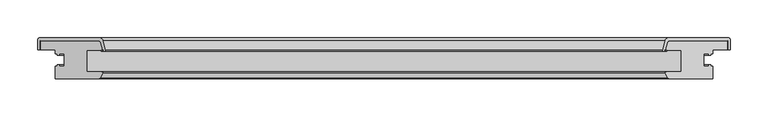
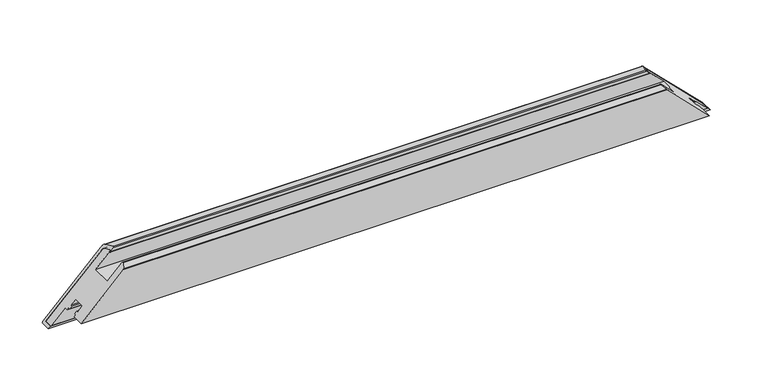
"""IFC4 building model written with IfcOpenShell, lengths in millimetres: proxy geometry, Weiku - Montante - Folha 02.2.01.018 : Weiku - Montante - Folha 02.2.01.018."""

from ifc_helpers import new_model, si_unit, frame, origin, place, context, project, spatial, polyline, ellipse_curve, source, transform, mapped, element, save
from ifc_brep_helpers import plane_surface, cylinder_surface, revolved_surface, advanced_brep


def generic_models_2c19f4be(model_context):
    return source(origin(), model_context, "Body", "AdvancedBrep", [
        advanced_brep(
        [(453.5, 50.0, 0.0), (376.4997332, 50.0, 77.0002668), (-376.4997332, 50.0, 77.0002668), (-453.5, 50.0, 0.0), (373.6019557, 47.7764571, 79.8980443), (-373.6019557, 47.7764571, 79.8980443), (371.0170371, 38.1294095, 82.4829629), (-371.0170371, 38.1294095, 82.4829629), (371.5, 37.5, 82.0), (-371.5, 37.5, 82.0), (372.3560102, 37.5, 81.1439898), (-372.3560102, 37.5, 81.1439898), (372.3560102, 36.5, 81.1439898), (-372.3560102, 36.5, 81.1439898), (367.7425588, 36.5, 85.7574412), (-367.7425588, 36.5, 85.7574412), (366.7766329, 37.758819, 86.7233671), (-366.7766329, 37.758819, 86.7233671), (370.1354501, 50.2940952, 83.3645499), (-370.1354501, 50.2940952, 83.3645499), (374.9650792, 54.0, 78.5349208), (-374.9650792, 54.0, 78.5349208), (454.5, 54.0, -1.0), (-454.5, 54.0, -1.0), (456.5, 52.0, -3.0), (-456.5, 52.0, -3.0), (456.5, 38.5, -3.0), (-456.5, 38.5, -3.0), (453.5, 38.5, 0.0), (-453.5, 38.5, 0.0)],
        [
            (0, 1),
            (1, 2),
            (2, 3),
            (3, 0),
            (1, 4, ellipse_curve(frame((376.4997332, 47.0, 77.0002668), z_axis=(0.7071067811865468, 0.0, 0.7071067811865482), x_axis=(0.7071067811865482, 0.0, -0.7071067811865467)), 4.2426407, 3.0)),
            (4, 5),
            (5, 2, ellipse_curve(frame((-376.4997332, 47.0, 77.0002668), z_axis=(-0.7071067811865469, 0.0, 0.7071067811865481), x_axis=(0.7071067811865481, 0.0, 0.7071067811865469)), 4.2426407, 3.0)),
            (4, 6),
            (6, 7),
            (7, 5),
            (6, 8, ellipse_curve(frame((371.5, 38.0, 82.0), z_axis=(0.7071067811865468, 0.0, 0.7071067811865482), x_axis=(0.7071067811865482, 0.0, -0.7071067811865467)), 0.7071068, 0.5)),
            (8, 9),
            (9, 7, ellipse_curve(frame((-371.5, 38.0, 82.0), z_axis=(-0.7071067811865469, 0.0, 0.7071067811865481), x_axis=(0.7071067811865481, 0.0, 0.7071067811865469)), 0.7071068, 0.5)),
            (8, 10),
            (10, 11),
            (11, 9),
            (10, 12, ellipse_curve(frame((372.3560102, 37.0, 81.1439898), z_axis=(-0.7071067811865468, 0.0, -0.7071067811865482), x_axis=(-0.7071067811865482, 0.0, 0.7071067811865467)), 0.7071068, 0.5)),
            (12, 13),
            (13, 11, ellipse_curve(frame((-372.3560102, 37.0, 81.1439898), z_axis=(0.7071067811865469, 0.0, -0.7071067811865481), x_axis=(-0.7071067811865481, 0.0, -0.7071067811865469)), 0.7071068, 0.5)),
            (12, 14),
            (14, 15),
            (15, 13),
            (14, 16, ellipse_curve(frame((367.7425588, 37.5, 85.7574412), z_axis=(-0.7071067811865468, 0.0, -0.7071067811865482), x_axis=(-0.7071067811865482, 0.0, 0.7071067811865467)), 1.4142136, 1.0)),
            (16, 17),
            (17, 15, ellipse_curve(frame((-367.7425588, 37.5, 85.7574412), z_axis=(0.7071067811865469, 0.0, -0.7071067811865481), x_axis=(-0.7071067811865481, 0.0, -0.7071067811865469)), 1.4142136, 1.0)),
            (16, 18),
            (18, 19),
            (19, 17),
            (18, 20, ellipse_curve(frame((374.9650792, 49.0, 78.5349208), z_axis=(-0.7071067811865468, 0.0, -0.7071067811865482), x_axis=(-0.7071067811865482, 0.0, 0.7071067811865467)), 7.0710678, 5.0)),
            (20, 21),
            (21, 19, ellipse_curve(frame((-374.9650792, 49.0, 78.5349208), z_axis=(0.7071067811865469, 0.0, -0.7071067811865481), x_axis=(-0.7071067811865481, 0.0, -0.7071067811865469)), 7.0710678, 5.0)),
            (20, 22),
            (22, 23),
            (23, 21),
            (22, 24, ellipse_curve(frame((454.5, 52.0, -1.0), z_axis=(-0.7071067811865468, 0.0, -0.7071067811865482), x_axis=(-0.7071067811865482, 0.0, 0.7071067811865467)), 2.8284271, 2.0)),
            (24, 25),
            (25, 23, ellipse_curve(frame((-454.5, 52.0, -1.0), z_axis=(0.7071067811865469, 0.0, -0.7071067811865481), x_axis=(-0.7071067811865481, 0.0, -0.7071067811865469)), 2.8284271, 2.0)),
            (24, 26),
            (26, 27),
            (27, 25),
            (26, 28),
            (28, 29),
            (29, 27),
            (28, 0),
            (3, 29),
        ],
        [
            plane_surface(frame((-473.5, 50.0, 0.0), z_axis=(0.0, -1.0, 0.0), x_axis=(1.0, 0.0, 0.0))),
            revolved_surface(polyline([(379.49973320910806, 50.0, 77.0002668), (-379.49973320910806, 50.0, 77.0002668)]), (-473.5, 47.0, 77.0002668), (1.0, 0.0, 0.0)),
            plane_surface(frame((-473.5, 47.7764571, 79.8980443), z_axis=(0.0, -0.2588190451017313, -0.9659258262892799), x_axis=(1.0, 0.0, 0.0))),
            revolved_surface(polyline([(372.00000001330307, 38.5, 82.0), (-372.0000000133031, 38.5, 82.0)]), (-473.5, 38.0, 82.0), (1.0, 0.0, 0.0)),
            plane_surface(frame((-473.5, 37.5, 82.0), z_axis=(0.0, 1.0, 0.0), x_axis=(1.0, 0.0, 0.0))),
            cylinder_surface(frame((-473.5, 37.0, 81.1439898), z_axis=(-1.0, 0.0, 0.0), x_axis=(0.0, 1.0, 0.0)), 0.5),
            plane_surface(frame((-473.5, 36.5, 81.1439898), z_axis=(0.0, -1.0, 0.0), x_axis=(1.0, 0.0, 0.0))),
            cylinder_surface(frame((-473.5, 37.5, 85.7574412), z_axis=(-1.0, 0.0, 0.0), x_axis=(0.0, 1.0, 0.0)), 1.0),
            plane_surface(frame((-473.5, 37.758819, 86.7233671), z_axis=(0.0, 0.25881904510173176, 0.9659258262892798), x_axis=(1.0, 0.0, 0.0))),
            cylinder_surface(frame((-473.5, 49.0, 78.5349208), z_axis=(-1.0, 0.0, 0.0), x_axis=(0.0, 1.0, 0.0)), 5.0),
            plane_surface(frame((-473.5, 54.0, 78.5349208), z_axis=(0.0, 1.0, 0.0), x_axis=(1.0, 0.0, 0.0))),
            cylinder_surface(frame((-473.5, 52.0, -1.0), z_axis=(-1.0, 0.0, 0.0), x_axis=(0.0, 1.0, 0.0)), 2.0),
            plane_surface(frame((-473.5, 52.0, -3.0), z_axis=(0.0, 0.0, -1.0), x_axis=(1.0, 0.0, 0.0))),
            plane_surface(frame((-473.5, 38.5, -3.0), z_axis=(0.0, -1.0, 0.0), x_axis=(1.0, 0.0, 0.0))),
            plane_surface(frame((-473.5, 38.5, 0.0), z_axis=(0.0, 0.0, 1.0), x_axis=(1.0, 0.0, 0.0))),
            plane_surface(frame((363.5, 0.0, 90.0), z_axis=(0.7071067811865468, 0.0, 0.7071067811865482), x_axis=(0.0, 1.0, 0.0))),
            plane_surface(frame((-481.7842712, 0.0, -28.2842712), z_axis=(-0.7071067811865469, 0.0, 0.7071067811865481), x_axis=(0.0, 1.0, 0.0))),
        ],
        [
            (0, [[1, 2, 3, 4]]),
            (1, [[5, 6, 7, -2]]),
            (2, [[8, 9, 10, -6]]),
            (3, [[11, 12, 13, -9]]),
            (4, [[14, 15, 16, -12]]),
            (5, [[17, 18, 19, -15]]),
            (6, [[20, 21, 22, -18]]),
            (7, [[23, 24, 25, -21]]),
            (8, [[26, 27, 28, -24]]),
            (9, [[29, 30, 31, -27]]),
            (10, [[32, 33, 34, -30]]),
            (11, [[35, 36, 37, -33]]),
            (12, [[38, 39, 40, -36]]),
            (13, [[41, 42, 43, -39]]),
            (14, [[44, -4, 45, -42]]),
            (15, [[-1, -44, -41, -38, -35, -32, -29, -26, -23, -20, -17, -14, -11, -8, -5]]),
            (16, [[-3, -7, -10, -13, -16, -19, -22, -25, -28, -31, -34, -37, -40, -43, -45]]),
        ],
    ),
        advanced_brep(
        [(453.5, 50.0, 0.0), (-453.5, 50.0, 0.0), (-376.4997332, 50.0, 77.0002668), (376.4997332, 50.0, 77.0002668), (453.5, 38.5, 0.0), (-453.5, 38.5, 0.0), (-375.4872264, 0.0, 78.0127736), (-433.5, 0.0, 20.0), (433.5, 0.0, 20.0), (375.4872264, 0.0, 78.0127736), (-433.5, 38.5, 20.0), (-433.5, 33.1, 20.0), (-431.3, 33.1, 22.2), (-431.3, 31.1, 22.2), (-428.5, 31.1, 25.0), (-428.5, 33.1, 25.0), (-422.0, 33.1, 31.5), (-422.0, 16.9, 31.5), (-428.5, 16.9, 25.0), (-428.5, 18.9, 25.0), (-431.3, 18.9, 22.2), (-431.3, 16.9, 22.2), (-433.5, 16.9, 20.0), (-374.5932657, 0.5518546, 78.9067343), (-371.0512796, 7.617411, 82.4487204), (-372.2134285, 9.5, 81.2865715), (-392.0, 9.5, 61.5), (-392.0, 37.5, 61.5), (-371.5, 37.5, 82.0), (-371.0170371, 38.1294095, 82.4829629), (-373.6019557, 47.7764571, 79.8980443), (373.6019557, 47.7764571, 79.8980443), (371.0170371, 38.1294095, 82.4829629), (371.5, 37.5, 82.0), (392.0, 37.5, 61.5), (392.0, 9.5, 61.5), (372.2134285, 9.5, 81.2865715), (371.0512796, 7.617411, 82.4487204), (374.5932657, 0.5518546, 78.9067343), (433.5, 16.9, 20.0), (431.3, 16.9, 22.2), (431.3, 18.9, 22.2), (428.5, 18.9, 25.0), (428.5, 16.9, 25.0), (422.0, 16.9, 31.5), (422.0, 33.1, 31.5), (428.5, 33.1, 25.0), (428.5, 31.1, 25.0), (431.3, 31.1, 22.2), (431.3, 33.1, 22.2), (433.5, 33.1, 20.0), (433.5, 38.5, 20.0)],
        [
            (0, 1),
            (1, 2),
            (2, 3),
            (3, 0),
            (0, 4),
            (4, 5),
            (5, 1),
            (6, 7),
            (7, 8),
            (8, 9),
            (9, 6),
            (5, 10),
            (10, 11),
            (11, 12),
            (12, 13),
            (13, 14),
            (14, 15),
            (15, 16),
            (16, 17),
            (17, 18),
            (18, 19),
            (19, 20),
            (20, 21),
            (21, 22),
            (22, 7),
            (6, 23, ellipse_curve(frame((-375.4872264, 1.0, 78.0127736), z_axis=(-0.7071067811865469, 0.0, 0.7071067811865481), x_axis=(-0.7071067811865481, 0.0, -0.7071067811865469)), 1.4142136, 1.0)),
            (23, 24),
            (24, 25, ellipse_curve(frame((-372.2134285, 8.2, 81.2865715), z_axis=(-0.7071067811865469, 0.0, 0.7071067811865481), x_axis=(-0.7071067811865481, 0.0, -0.7071067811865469)), 1.8384776, 1.3)),
            (25, 26),
            (26, 27),
            (27, 28),
            (28, 29, ellipse_curve(frame((-371.5, 38.0, 82.0), z_axis=(-0.7071067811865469, 0.0, 0.7071067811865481), x_axis=(-0.7071067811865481, 0.0, -0.7071067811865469)), 0.7071068, 0.5)),
            (29, 30),
            (30, 2, ellipse_curve(frame((-376.4997332, 47.0, 77.0002668), z_axis=(-0.7071067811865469, 0.0, 0.7071067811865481), x_axis=(-0.7071067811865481, 0.0, -0.7071067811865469)), 4.2426407, 3.0)),
            (3, 31, ellipse_curve(frame((376.4997332, 47.0, 77.0002668), z_axis=(0.7071067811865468, 0.0, 0.7071067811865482), x_axis=(-0.7071067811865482, 0.0, 0.7071067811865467)), 4.2426407, 3.0)),
            (31, 32),
            (32, 33, ellipse_curve(frame((371.5, 38.0, 82.0), z_axis=(0.7071067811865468, 0.0, 0.7071067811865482), x_axis=(-0.7071067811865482, 0.0, 0.7071067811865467)), 0.7071068, 0.5)),
            (33, 34),
            (34, 35),
            (35, 36),
            (36, 37, ellipse_curve(frame((372.2134285, 8.2, 81.2865715), z_axis=(0.7071067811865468, 0.0, 0.7071067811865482), x_axis=(-0.7071067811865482, 0.0, 0.7071067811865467)), 1.8384776, 1.3)),
            (37, 38),
            (38, 9, ellipse_curve(frame((375.4872264, 1.0, 78.0127736), z_axis=(0.7071067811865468, 0.0, 0.7071067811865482), x_axis=(-0.7071067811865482, 0.0, 0.7071067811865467)), 1.4142136, 1.0)),
            (8, 39),
            (39, 40),
            (40, 41),
            (41, 42),
            (42, 43),
            (43, 44),
            (44, 45),
            (45, 46),
            (46, 47),
            (47, 48),
            (48, 49),
            (49, 50),
            (50, 51),
            (51, 4),
            (38, 23),
            (37, 24),
            (36, 25),
            (35, 26),
            (34, 27),
            (33, 28),
            (32, 29),
            (31, 30),
            (51, 10),
            (50, 11),
            (49, 12),
            (48, 13),
            (47, 14),
            (46, 15),
            (45, 16),
            (44, 17),
            (43, 18),
            (42, 19),
            (41, 20),
            (40, 21),
            (39, 22),
        ],
        [
            plane_surface(frame((-453.5, 50.0, 77.0002668), z_axis=(0.0, 1.0, 0.0), x_axis=(1.0, 0.0, 0.0))),
            plane_surface(frame((-453.5, 50.0, 0.0), z_axis=(0.0, 0.0, -1.0), x_axis=(1.0, 0.0, 0.0))),
            plane_surface(frame((-453.5, 0.0, 20.0), z_axis=(0.0, -1.0, 0.0), x_axis=(1.0, 0.0, 0.0))),
            plane_surface(frame((-481.7842712, 0.0, -28.2842712), z_axis=(-0.7071067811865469, 0.0, 0.7071067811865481), x_axis=(0.0, 1.0, 0.0))),
            plane_surface(frame((363.5, 0.0, 90.0), z_axis=(0.7071067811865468, 0.0, 0.7071067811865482), x_axis=(0.0, 1.0, 0.0))),
            cylinder_surface(frame((-453.5, 1.0, 78.0127736), z_axis=(-1.0, 0.0, 0.0), x_axis=(0.0, 1.0, 0.0)), 1.0),
            plane_surface(frame((-453.5, 0.5518546, 78.9067343), z_axis=(0.0, -0.4481453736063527, 0.8939606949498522), x_axis=(1.0, 0.0, 0.0))),
            cylinder_surface(frame((-453.5, 8.2, 81.2865715), z_axis=(-1.0, 0.0, 0.0), x_axis=(0.0, 1.0, 0.0)), 1.3),
            plane_surface(frame((-453.5, 9.5, 81.2865715), z_axis=(0.0, 1.0, 0.0), x_axis=(1.0, 0.0, 0.0))),
            plane_surface(frame((-453.5, 9.5, 61.5), z_axis=(0.0, 0.0, 1.0), x_axis=(1.0, 0.0, 0.0))),
            plane_surface(frame((-453.5, 37.5, 61.5), z_axis=(0.0, -1.0, 0.0), x_axis=(1.0, 0.0, 0.0))),
            cylinder_surface(frame((-453.5, 38.0, 82.0), z_axis=(-1.0, 0.0, 0.0), x_axis=(0.0, 1.0, 0.0)), 0.5),
            plane_surface(frame((-453.5, 38.1294095, 82.4829629), z_axis=(0.0, 0.2588190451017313, 0.9659258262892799), x_axis=(1.0, 0.0, 0.0))),
            cylinder_surface(frame((-453.5, 47.0, 77.0002668), z_axis=(-1.0, 0.0, 0.0), x_axis=(0.0, 1.0, 0.0)), 3.0),
            plane_surface(frame((-453.5, 38.5, 0.0), z_axis=(0.0, -1.0, 0.0), x_axis=(1.0, 0.0, 0.0))),
            plane_surface(frame((-453.5, 38.5, 20.0), z_axis=(0.0, 0.0, -1.0), x_axis=(1.0, 0.0, 0.0))),
            plane_surface(frame((-453.5, 33.1, 20.0), z_axis=(0.0, -1.0, 0.0), x_axis=(1.0, 0.0, 0.0))),
            plane_surface(frame((-453.5, 33.1, 22.2), z_axis=(0.0, 0.0, -1.0), x_axis=(1.0, 0.0, 0.0))),
            plane_surface(frame((-453.5, 31.1, 22.2), z_axis=(0.0, -1.0, 0.0), x_axis=(1.0, 0.0, 0.0))),
            plane_surface(frame((-453.5, 31.1, 25.0), z_axis=(0.0, 0.0, 1.0), x_axis=(1.0, 0.0, 0.0))),
            plane_surface(frame((-453.5, 33.1, 25.0), z_axis=(0.0, -1.0, 0.0), x_axis=(1.0, 0.0, 0.0))),
            plane_surface(frame((-453.5, 33.1, 31.5), z_axis=(0.0, 0.0, -1.0), x_axis=(1.0, 0.0, 0.0))),
            plane_surface(frame((-453.5, 16.9, 31.5), z_axis=(0.0, 1.0, 0.0), x_axis=(1.0, 0.0, 0.0))),
            plane_surface(frame((-453.5, 16.9, 25.0), z_axis=(0.0, 0.0, 1.0), x_axis=(1.0, 0.0, 0.0))),
            plane_surface(frame((-453.5, 18.9, 25.0), z_axis=(0.0, 1.0, 0.0), x_axis=(1.0, 0.0, 0.0))),
            plane_surface(frame((-453.5, 18.9, 22.2), z_axis=(0.0, 0.0, -1.0), x_axis=(1.0, 0.0, 0.0))),
            plane_surface(frame((-453.5, 16.9, 22.2), z_axis=(0.0, 1.0, 0.0), x_axis=(1.0, 0.0, 0.0))),
            plane_surface(frame((-453.5, 16.9, 20.0), z_axis=(0.0, 0.0, -1.0), x_axis=(1.0, 0.0, 0.0))),
        ],
        [
            (0, [[1, 2, 3, 4]]),
            (1, [[-1, 5, 6, 7]]),
            (2, [[8, 9, 10, 11]]),
            (3, [[-2, -7, 12, 13, 14, 15, 16, 17, 18, 19, 20, 21, 22, 23, 24, 25, -8, 26, 27, 28, 29, 30, 31, 32, 33, 34]]),
            (4, [[-4, 35, 36, 37, 38, 39, 40, 41, 42, 43, -10, 44, 45, 46, 47, 48, 49, 50, 51, 52, 53, 54, 55, 56, 57, -5]]),
            (5, [[-26, -11, -43, 58]]),
            (6, [[-27, -58, -42, 59]]),
            (7, [[-28, -59, -41, 60]]),
            (8, [[-29, -60, -40, 61]]),
            (9, [[-30, -61, -39, 62]]),
            (10, [[-31, -62, -38, 63]]),
            (11, [[-32, -63, -37, 64]]),
            (12, [[-33, -64, -36, 65]]),
            (13, [[-34, -65, -35, -3]]),
            (14, [[-6, -57, 66, -12]]),
            (15, [[-13, -66, -56, 67]]),
            (16, [[-14, -67, -55, 68]]),
            (17, [[-15, -68, -54, 69]]),
            (18, [[-16, -69, -53, 70]]),
            (19, [[-17, -70, -52, 71]]),
            (20, [[-18, -71, -51, 72]]),
            (21, [[-19, -72, -50, 73]]),
            (22, [[-20, -73, -49, 74]]),
            (23, [[-21, -74, -48, 75]]),
            (24, [[-22, -75, -47, 76]]),
            (25, [[-23, -76, -46, 77]]),
            (26, [[-24, -77, -45, 78]]),
            (27, [[-25, -78, -44, -9]]),
        ],
    ),
    ])


if __name__ == "__main__":
    model = new_model("IFC4")
    model_context = context("Model", 3, world=origin())
    ifc_project = project(units=[si_unit("LENGTHUNIT", "METRE", prefix="MILLI")], contexts=[model_context])
    site = spatial("IfcSite", under=ifc_project)
    building = spatial("IfcBuilding", under=site)
    placement = place(None, origin())
    generic_models_shape = generic_models_2c19f4be(model_context)
    element("IfcBuildingElementProxy", 1, Name="Weiku - Montante - Folha 02.2.01.018 : Weiku - Montante - Folha 02.2.01.018", ObjectType="Weiku - Montante - Folha 02.2.01.018 : Weiku - Montante - Folha 02.2.01.018", at=placement, inside=building, context=model_context, shape_type="MappedRepresentation", body=[
        mapped(generic_models_shape, transform((0.0, 0.0, 0.0), x_axis=(1.0, 0.0, 0.0), y_axis=(0.0, 1.0, 0.0), z_axis=(0.0, 0.0, 1.0))),
    ])
    save(model, "model.ifc")
